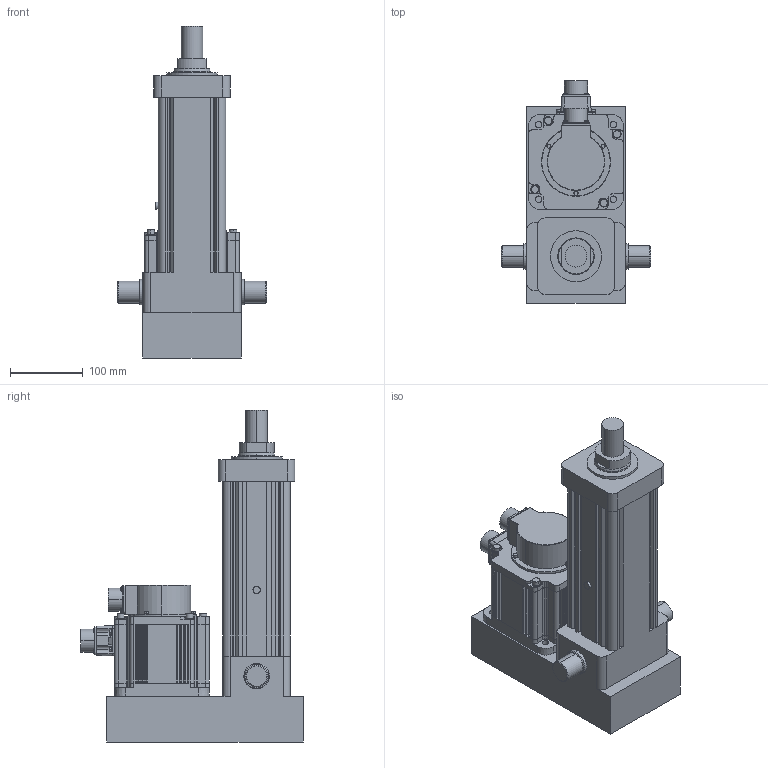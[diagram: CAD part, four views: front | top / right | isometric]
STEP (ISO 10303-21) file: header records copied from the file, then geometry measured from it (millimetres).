
FILE_DESCRIPTION (( 'STEP AP203' ), '1' );
FILE_NAME ('S4殏殿嫉粣假蚾.STEP', '2024-05-27T05:26:23', ( '' ), ( '' ), 'SwSTEP 2.0', 'SolidWorks 2018', '' );
FILE_SCHEMA (( 'CONFIG_CONTROL_DESIGN' ));
Length unit declared in the file: millimetre
Products named in the file (3): S4殏殿嫉粣假蚾; S4殏殿嫉粣; ECMA-FX1308ES-130框號系列機種-0.85KW高慣量系列
Assembly tree (2 placements, depth 2):
  S4殏殿嫉粣假蚾
    S4殏殿嫉粣
    ECMA-FX1308ES-130框號系列機種-0.85KW高慣量系列
Bounding box: 205 x 305.44 x 456 mm (x, y, z)
Volume: 5988525.3 mm3; surface area: 587391.3 mm2
Topology: 3 solids, 15 shells, 944 faces, 2248 edges, 1394 vertices
Faces by surface type: plane 410, cylinder 357, cone 109, torus 47, sphere 20, bspline 1
Entity records: 28154 total; most frequent: CARTESIAN_POINT 5447, DIRECTION 4964, ORIENTED_EDGE 4492, EDGE_CURVE 2246, AXIS2_PLACEMENT_3D 1850, VERTEX_POINT 1394, LINE 1264, VECTOR 1264
